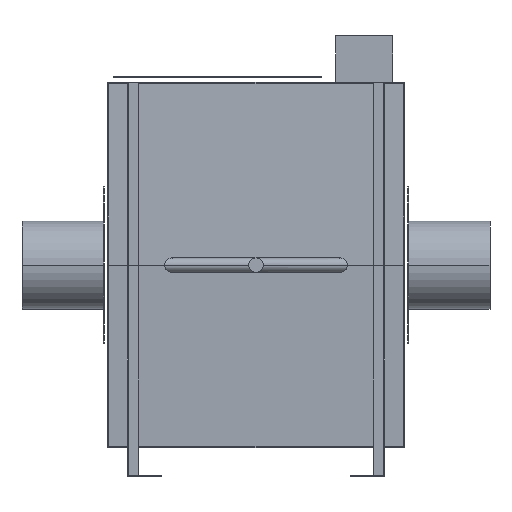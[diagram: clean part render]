
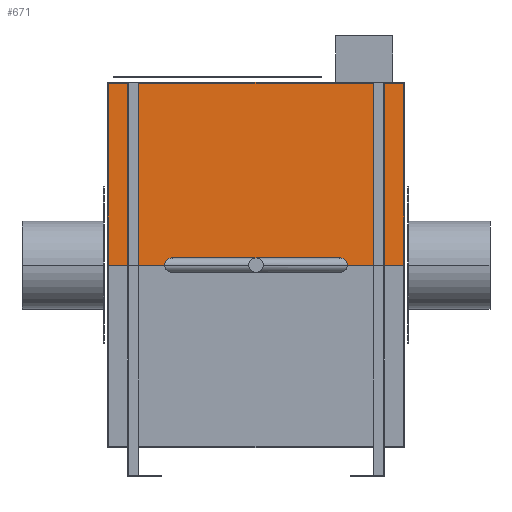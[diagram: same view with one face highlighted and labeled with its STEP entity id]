
A CAD part, front view. The second image highlights one B-rep face of the part: STEP entity #671.
In plain terms, the highlighted planar face has unit normal (0, -1, 0.031).
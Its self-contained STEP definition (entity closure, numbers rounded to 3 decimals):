
#149=DIRECTION('',(0.,-0.031,-1.));
#150=VECTOR('',#149,320.156);
#151=CARTESIAN_POINT('',(260.,-357.5,320.));
#152=LINE('',#151,#150);
#183=DIRECTION('',(0.,-0.031,-1.));
#184=VECTOR('',#183,320.156);
#185=CARTESIAN_POINT('',(-260.,-357.5,320.));
#186=LINE('',#185,#184);
#293=DIRECTION('',(1.,0.,0.));
#294=VECTOR('',#293,520.);
#295=CARTESIAN_POINT('',(-260.,-357.5,320.));
#296=LINE('',#295,#294);
#297=DIRECTION('',(1.,0.,0.));
#298=VECTOR('',#297,520.);
#299=CARTESIAN_POINT('',(-260.,-367.5,0.));
#300=LINE('',#299,#298);
#341=CARTESIAN_POINT('',(-260.,-357.5,320.));
#342=VERTEX_POINT('',#341);
#343=CARTESIAN_POINT('',(-260.,-367.5,0.));
#344=VERTEX_POINT('',#343);
#351=CARTESIAN_POINT('',(260.,-357.5,320.));
#352=VERTEX_POINT('',#351);
#353=CARTESIAN_POINT('',(260.,-367.5,0.));
#354=VERTEX_POINT('',#353);
#659=CARTESIAN_POINT('',(-260.,-357.5,320.));
#660=DIRECTION('',(0.,-1.,0.031));
#661=DIRECTION('',(0.,-0.031,-1.));
#662=AXIS2_PLACEMENT_3D('',#659,#660,#661);
#663=PLANE('',#662);
#664=ORIENTED_EDGE('',*,*,#506,.F.);
#665=ORIENTED_EDGE('',*,*,#644,.T.);
#666=ORIENTED_EDGE('',*,*,#459,.T.);
#668=ORIENTED_EDGE('',*,*,#667,.F.);
#669=EDGE_LOOP('',(#664,#665,#666,#668));
#670=FACE_OUTER_BOUND('',#669,.F.);
#459=EDGE_CURVE('',#352,#354,#152,.T.);
#506=EDGE_CURVE('',#342,#344,#186,.T.);
#644=EDGE_CURVE('',#342,#352,#296,.T.);
#667=EDGE_CURVE('',#344,#354,#300,.T.);
#671=ADVANCED_FACE('',(#670),#663,.T.);
